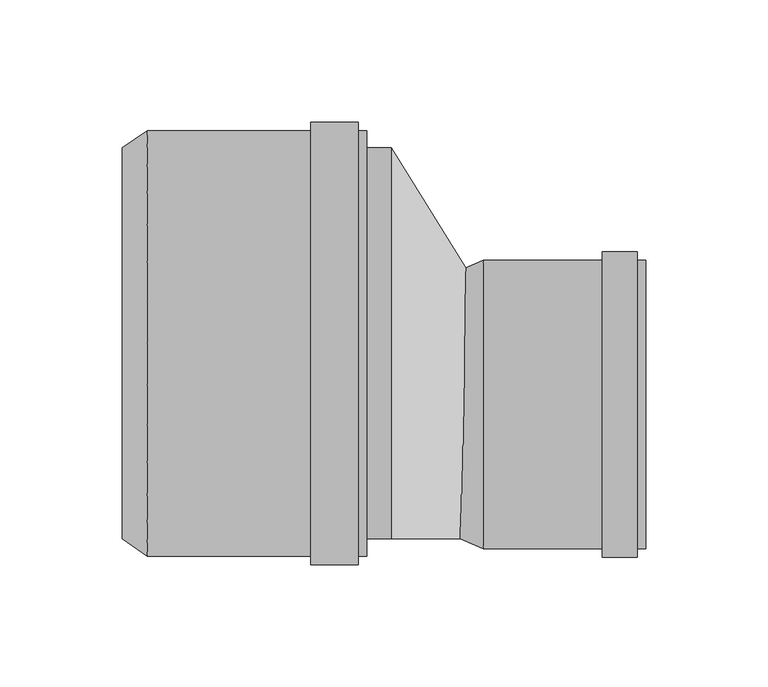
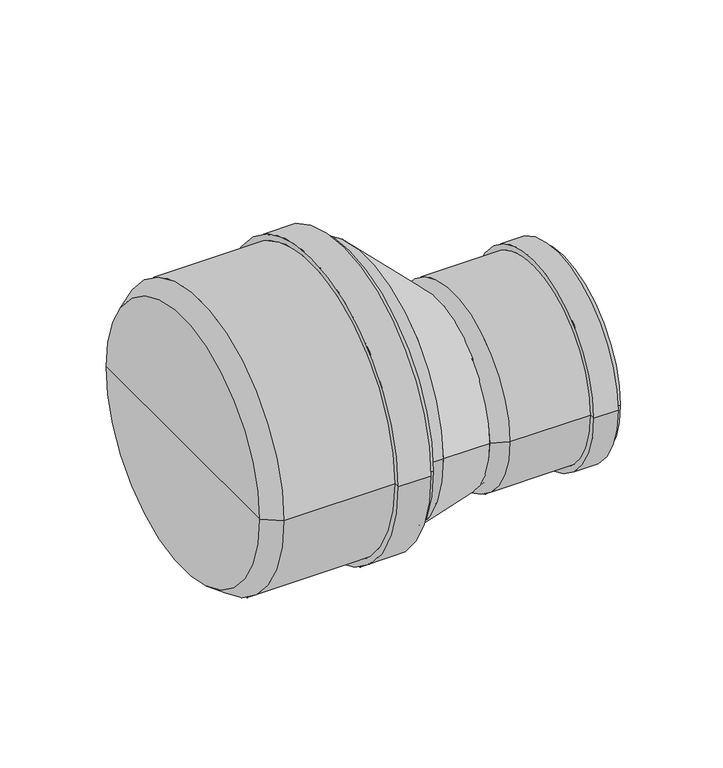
"""IFC4 building model written with IfcOpenShell, lengths in millimetres: pipe fitting geometry, pf_HTR_red-nes-dlouha : pf_HTR_red-nes-dlouha."""

from ifc_helpers import new_model, si_unit, point, frame, origin, origin_2d, place, context, project, spatial, polyline, circle_curve, trimmed, segment, composite_curve, outline, extrude, source, transform, mapped, element, save
from ifc_brep_helpers import plane_surface, cylinder_surface, revolved_surface, spline_surface, advanced_brep


def pipe_fitting_18b1635c(model_context):
    return source(origin(), model_context, "Body", "SolidModel", [
        advanced_brep(
        [(-110.0, -80.0, 0.0), (-110.0, 80.0, 0.0), (-99.7, 87.1, 0.0), (-99.7, -87.1, 0.0), (-110.0, 0.0, 0.0), (-10.0, -87.1, 0.0), (-10.0, 87.1, 0.0), (-10.0, 0.0, 0.0), (-13.4, -87.1, 0.0), (-13.4, 87.1, 0.0), (-13.4, -90.5, 0.0), (-13.4, 90.5, 0.0), (-32.9, -90.5, 0.0), (-32.9, 90.5, 0.0), (-32.9, -87.1, 0.0), (-32.9, 87.1, 0.0)],
        [
            (0, 1, circle_curve(frame((-110.0, 0.0, 0.0), z_axis=(1.0, 0.0, 0.0), x_axis=(0.0, 1.0, 0.0)), 80.0)),
            (1, 2),
            (2, 3, circle_curve(frame((-99.7, 0.0, 0.0), z_axis=(-1.0, 0.0, 0.0), x_axis=(0.0, 1.0, 0.0)), 87.1)),
            (3, 0),
            (1, 0, circle_curve(frame((-110.0, 0.0, 0.0), z_axis=(1.0, 0.0, 0.0), x_axis=(0.0, 1.0, 0.0)), 80.0)),
            (3, 2, circle_curve(frame((-99.7, 0.0, 0.0), z_axis=(-1.0, 0.0, 0.0), x_axis=(0.0, 1.0, 0.0)), 87.1)),
            (4, 1),
            (0, 4),
            (5, 6, circle_curve(frame((-10.0, 0.0, 0.0), z_axis=(1.0, 0.0, 0.0), x_axis=(0.0, 1.0, 0.0)), 87.1)),
            (6, 7),
            (7, 5),
            (6, 5, circle_curve(frame((-10.0, 0.0, 0.0), z_axis=(1.0, 0.0, 0.0), x_axis=(0.0, 1.0, 0.0)), 87.1)),
            (8, 9, circle_curve(frame((-13.4, 0.0, 0.0), z_axis=(1.0, 0.0, 0.0), x_axis=(0.0, 1.0, 0.0)), 87.1)),
            (9, 6),
            (5, 8),
            (9, 8, circle_curve(frame((-13.4, 0.0, 0.0), z_axis=(1.0, 0.0, 0.0), x_axis=(0.0, 1.0, 0.0)), 87.1)),
            (10, 11, circle_curve(frame((-13.4, 0.0, 0.0), z_axis=(1.0, 0.0, 0.0), x_axis=(0.0, 1.0, 0.0)), 90.5)),
            (11, 9),
            (8, 10),
            (11, 10, circle_curve(frame((-13.4, 0.0, 0.0), z_axis=(1.0, 0.0, 0.0), x_axis=(0.0, 1.0, 0.0)), 90.5)),
            (12, 13, circle_curve(frame((-32.9, 0.0, 0.0), z_axis=(1.0, 0.0, 0.0), x_axis=(0.0, 1.0, 0.0)), 90.5)),
            (13, 11),
            (10, 12),
            (13, 12, circle_curve(frame((-32.9, 0.0, 0.0), z_axis=(1.0, 0.0, 0.0), x_axis=(0.0, 1.0, 0.0)), 90.5)),
            (14, 15, circle_curve(frame((-32.9, 0.0, 0.0), z_axis=(1.0, 0.0, 0.0), x_axis=(0.0, 1.0, 0.0)), 87.1)),
            (15, 13),
            (12, 14),
            (15, 14, circle_curve(frame((-32.9, 0.0, 0.0), z_axis=(1.0, 0.0, 0.0), x_axis=(0.0, 1.0, 0.0)), 87.1)),
            (2, 15),
            (14, 3),
        ],
        [
            revolved_surface(polyline([(-99.7, 87.1, 0.0), (-110.0, 80.0, 0.0)]), (-110.0, 0.0, 0.0), (-1.0, 0.0, 0.0)),
            plane_surface(frame((-110.0, 0.0, 0.0), z_axis=(-1.0, 0.0, 0.0), x_axis=(0.0, 1.0, 0.0))),
            plane_surface(frame((-10.0, 0.0, 0.0), z_axis=(1.0, 0.0, 0.0), x_axis=(0.0, 1.0, 0.0))),
            cylinder_surface(frame((-110.0, 0.0, 0.0), z_axis=(-1.0, 0.0, 0.0), x_axis=(0.0, 1.0, 0.0)), 87.1),
            plane_surface(frame((-13.4, 0.0, 0.0), z_axis=(1.0, 0.0, 0.0), x_axis=(0.0, 1.0, 0.0))),
            cylinder_surface(frame((-110.0, 0.0, 0.0), z_axis=(-1.0, 0.0, 0.0), x_axis=(0.0, 1.0, 0.0)), 90.5),
            plane_surface(frame((-32.9, 0.0, 0.0), z_axis=(-1.0, 0.0, 0.0), x_axis=(0.0, 1.0, 0.0))),
        ],
        [
            (0, [[1, 2, 3, 4]]),
            (0, [[5, -4, 6, -2]]),
            (1, [[7, -1, 8]]),
            (1, [[-8, -5, -7]]),
            (2, [[9, 10, 11]]),
            (2, [[12, -11, -10]]),
            (3, [[13, 14, -9, 15]]),
            (3, [[16, -15, -12, -14]]),
            (4, [[17, 18, -13, 19]]),
            (4, [[20, -19, -16, -18]]),
            (5, [[21, 22, -17, 23]]),
            (5, [[24, -23, -20, -22]]),
            (6, [[25, 26, -21, 27]]),
            (6, [[28, -27, -24, -26]]),
            (3, [[-3, 29, -25, 30]]),
            (3, [[-6, -30, -28, -29]]),
        ],
    ),
        advanced_brep(
        [(28.25, -80.0, 0.0), (28.25, 30.0, 0.0), (37.75, 34.1, 0.0), (37.75, -84.1, 0.0), (28.25, -25.0, 0.0), (104.25, -84.1, 0.0), (104.25, 34.1, 0.0), (104.25, -25.0, 0.0), (100.85, -84.1, 0.0), (100.85, 34.1, 0.0), (100.85, -87.5, 0.0), (100.85, 37.5, 0.0), (86.35, -87.5, 0.0), (86.35, 37.5, 0.0), (86.35, -84.1, 0.0), (86.35, 34.1, 0.0)],
        [
            (0, 1, circle_curve(frame((28.25, -25.0, 0.0), z_axis=(1.0, 0.0, 0.0), x_axis=(0.0, 1.0, 0.0)), 55.0)),
            (1, 2),
            (2, 3, circle_curve(frame((37.75, -25.0, 0.0), z_axis=(-1.0, 0.0, 0.0), x_axis=(0.0, 1.0, 0.0)), 59.1)),
            (3, 0),
            (1, 0, circle_curve(frame((28.25, -25.0, 0.0), z_axis=(1.0, 0.0, 0.0), x_axis=(0.0, 1.0, 0.0)), 55.0)),
            (3, 2, circle_curve(frame((37.75, -25.0, 0.0), z_axis=(-1.0, 0.0, 0.0), x_axis=(0.0, 1.0, 0.0)), 59.1)),
            (4, 1),
            (0, 4),
            (5, 6, circle_curve(frame((104.25, -25.0, 0.0), z_axis=(1.0, 0.0, 0.0), x_axis=(0.0, 1.0, 0.0)), 59.1)),
            (6, 7),
            (7, 5),
            (6, 5, circle_curve(frame((104.25, -25.0, 0.0), z_axis=(1.0, 0.0, 0.0), x_axis=(0.0, 1.0, 0.0)), 59.1)),
            (8, 9, circle_curve(frame((100.85, -25.0, 0.0), z_axis=(1.0, 0.0, 0.0), x_axis=(0.0, 1.0, 0.0)), 59.1)),
            (9, 6),
            (5, 8),
            (9, 8, circle_curve(frame((100.85, -25.0, 0.0), z_axis=(1.0, 0.0, 0.0), x_axis=(0.0, 1.0, 0.0)), 59.1)),
            (10, 11, circle_curve(frame((100.85, -25.0, 0.0), z_axis=(1.0, 0.0, 0.0), x_axis=(0.0, 1.0, 0.0)), 62.5)),
            (11, 9),
            (8, 10),
            (11, 10, circle_curve(frame((100.85, -25.0, 0.0), z_axis=(1.0, 0.0, 0.0), x_axis=(0.0, 1.0, 0.0)), 62.5)),
            (12, 13, circle_curve(frame((86.35, -25.0, 0.0), z_axis=(1.0, 0.0, 0.0), x_axis=(0.0, 1.0, 0.0)), 62.5)),
            (13, 11),
            (10, 12),
            (13, 12, circle_curve(frame((86.35, -25.0, 0.0), z_axis=(1.0, 0.0, 0.0), x_axis=(0.0, 1.0, 0.0)), 62.5)),
            (14, 15, circle_curve(frame((86.35, -25.0, 0.0), z_axis=(1.0, 0.0, 0.0), x_axis=(0.0, 1.0, 0.0)), 59.1)),
            (15, 13),
            (12, 14),
            (15, 14, circle_curve(frame((86.35, -25.0, 0.0), z_axis=(1.0, 0.0, 0.0), x_axis=(0.0, 1.0, 0.0)), 59.1)),
            (2, 15),
            (14, 3),
        ],
        [
            revolved_surface(polyline([(37.75, 34.1, 0.0), (28.25, 30.0, 0.0)]), (28.25, -25.0, 0.0), (-1.0, 0.0, 0.0)),
            plane_surface(frame((28.25, -25.0, 0.0), z_axis=(-1.0, 0.0, 0.0), x_axis=(0.0, 1.0, 0.0))),
            plane_surface(frame((104.25, -25.0, 0.0), z_axis=(1.0, 0.0, 0.0), x_axis=(0.0, 1.0, 0.0))),
            cylinder_surface(frame((28.25, -25.0, 0.0), z_axis=(-1.0, 0.0, 0.0), x_axis=(0.0, 1.0, 0.0)), 59.1),
            plane_surface(frame((100.85, -25.0, 0.0), z_axis=(1.0, 0.0, 0.0), x_axis=(0.0, 1.0, 0.0))),
            cylinder_surface(frame((28.25, -25.0, 0.0), z_axis=(-1.0, 0.0, 0.0), x_axis=(0.0, 1.0, 0.0)), 62.5),
            plane_surface(frame((86.35, -25.0, 0.0), z_axis=(-1.0, 0.0, 0.0), x_axis=(0.0, 1.0, 0.0))),
        ],
        [
            (0, [[1, 2, 3, 4]]),
            (0, [[5, -4, 6, -2]]),
            (1, [[7, -1, 8]]),
            (1, [[-8, -5, -7]]),
            (2, [[9, 10, 11]]),
            (2, [[12, -11, -10]]),
            (3, [[13, 14, -9, 15]]),
            (3, [[16, -15, -12, -14]]),
            (4, [[17, 18, -13, 19]]),
            (4, [[20, -19, -16, -18]]),
            (5, [[21, 22, -17, 23]]),
            (5, [[24, -23, -20, -22]]),
            (6, [[25, 26, -21, 27]]),
            (6, [[28, -27, -24, -26]]),
            (3, [[-3, 29, -25, 30]]),
            (3, [[-6, -30, -28, -29]]),
        ],
    ),
        extrude(outline(composite_curve([segment(trimmed(circle_curve(origin_2d(), 80.0), [point((-80.0, 0.0))], [point((80.0, 0.0))], False, "CARTESIAN"), True, "CONTINUOUS"), segment(trimmed(circle_curve(origin_2d(), 80.0), [point((80.0, 0.0))], [point((-80.0, 0.0))], False, "CARTESIAN"), True, "CONTINUOUS")], self_intersect=False)), frame((-10.0, 0.0, 0.0), z_axis=(1.0, 0.0, 0.0), x_axis=(0.0, 1.0, 0.0)), (0.0, 0.0, 1.0), 10.0),
        advanced_brep(
        [(31.25, -80.0, 0.0), (31.25, 30.0, 0.0), (0.0, -80.0, 0.0), (0.0, 80.0, 0.0)],
        [
            (0, 1, circle_curve(frame((31.25, -25.0, 0.0), z_axis=(1.0, 0.0, 0.0), x_axis=(0.0, 1.0, 0.0)), 55.0)),
            (1, 0, circle_curve(frame((31.25, -25.0, 0.0), z_axis=(1.0, 0.0, 0.0), x_axis=(0.0, 1.0, 0.0)), 55.0)),
            (2, 3, circle_curve(frame((0.0, 0.0, 0.0), z_axis=(-1.0, 0.0, 0.0), x_axis=(0.0, 1.0, 0.0)), 80.0)),
            (3, 2, circle_curve(frame((0.0, 0.0, 0.0), z_axis=(-1.0, 0.0, 0.0), x_axis=(0.0, 1.0, 0.0)), 80.0)),
            (3, 1),
            (0, 2),
        ],
        [
            plane_surface(frame((31.25, -25.0, 0.0), z_axis=(1.0, 0.0, 0.0), x_axis=(0.0, 0.0, -1.0))),
            plane_surface(frame((0.0, 0.0, 0.0), z_axis=(-1.0, 0.0, 0.0), x_axis=(0.0, 0.0, -1.0))),
            spline_surface(2, 1, [[(0.0, -80.0, 0.0), (31.25, -80.0, 0.0)], [(0.0, -80.0, -80.0), (31.25, -80.0, -55.0)], [(0.0, 0.0, -80.0), (31.25, -25.0, -55.0)], [(0.0, 80.0, -80.0), (31.25, 30.0, -55.0)], [(0.0, 80.0, 0.0), (31.25, 30.0, 0.0)]], [3, 2, 3], [2, 2], [0.0, 1.0, 2.0], [0.0, 1.0], weights=[[1.0, 1.0], [0.7071067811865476, 0.7071067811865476], [1.0, 1.0], [0.7071067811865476, 0.7071067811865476], [1.0, 1.0]]),
            spline_surface(2, 1, [[(0.0, 80.0, 0.0), (31.25, 30.0, 0.0)], [(0.0, 80.0, 80.0), (31.25, 30.0, 55.0)], [(0.0, 0.0, 80.0), (31.25, -25.0, 55.0)], [(0.0, -80.0, 80.0), (31.25, -80.0, 55.0)], [(0.0, -80.0, 0.0), (31.25, -80.0, 0.0)]], [3, 2, 3], [2, 2], [0.0, 1.0, 2.0], [0.0, 1.0], weights=[[1.0, 1.0], [0.7071067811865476, 0.7071067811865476], [1.0, 1.0], [0.7071067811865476, 0.7071067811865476], [1.0, 1.0]]),
        ],
        [
            (0, [[1, 2]]),
            (1, [[3, 4]]),
            (2, [[-4, 5, -1, 6]]),
            (3, [[-3, -6, -2, -5]]),
        ],
    ),
    ])


if __name__ == "__main__":
    model = new_model("IFC4")
    model_context = context("Model", 3, world=origin())
    ifc_project = project(units=[si_unit("LENGTHUNIT", "METRE", prefix="MILLI")], contexts=[model_context])
    site = spatial("IfcSite", under=ifc_project)
    building = spatial("IfcBuilding", under=site)
    placement = place(None, origin())
    pipe_fitting_shape = pipe_fitting_18b1635c(model_context)
    element("IfcPipeFitting", 1, ObjectType="pf_HTR_red-nes-dlouha : pf_HTR_red-nes-dlouha", at=placement, inside=building, context=model_context, shape_type="MappedRepresentation", body=[
        mapped(pipe_fitting_shape, transform((0.0, 0.0, 0.0), x_axis=(1.0, 0.0, 0.0), y_axis=(0.0, 1.0, 0.0), z_axis=(0.0, 0.0, 1.0))),
    ])
    save(model, "model.ifc")
